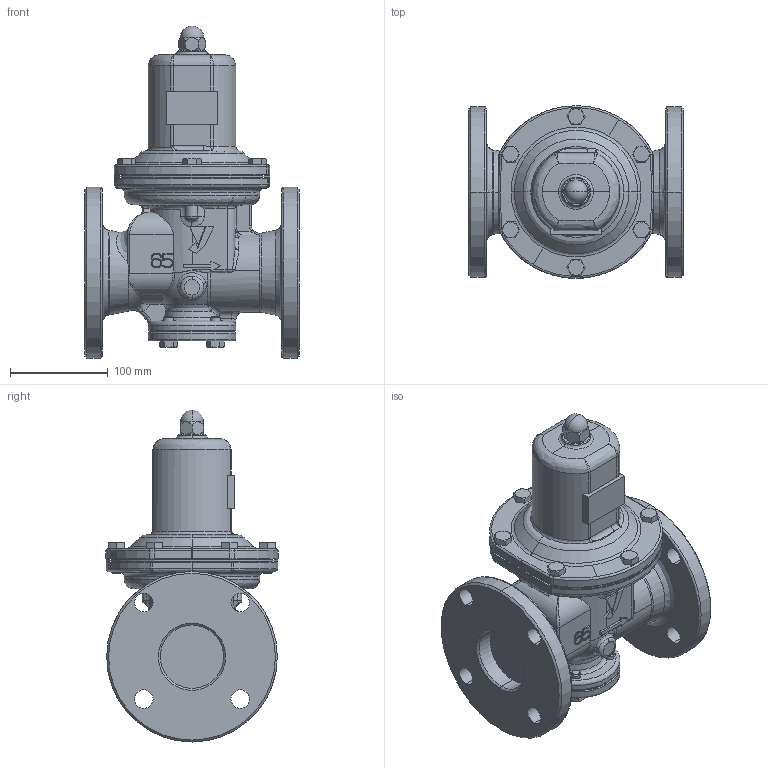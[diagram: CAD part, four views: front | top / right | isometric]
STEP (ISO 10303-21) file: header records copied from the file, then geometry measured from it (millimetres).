
FILE_DESCRIPTION( (''), '2;1');
FILE_NAME ('PC2082.18472.GD-27S-NE 65A_6195.stp','2026-03-25T14:54:06',(''),(''),'spGate 20.6.3 (****-****-****-****)','','');
FILE_SCHEMA (('AUTOMOTIVE_DESIGN'));
Length unit declared in the file: millimetre
Products named in the file (8): Assembly; ダイヤフラム65A; 保護筒; カバー　65A; CP_''_JIS B 1183 六角袋ナット 3形 M''_705; CP_''_JIS B 1180 呼び径六角ボルト''_M10-25; プラグ; 弁箱　65A 10KFF
Assembly tree (16 placements, depth 2):
  Assembly
    ダイヤフラム65A
    保護筒
    カバー　65A
    CP_''_JIS B 1183 六角袋ナット 3形 M''_705
    CP_''_JIS B 1180 呼び径六角ボルト''_M10-25  x10
    プラグ
    弁箱　65A 10KFF
Bounding box: 220 x 177 x 340.5 mm (x, y, z)
Volume: 2967598.2 mm3; surface area: 434483.3 mm2
Topology: 16 solids, 16 shells, 826 faces, 2025 edges, 1233 vertices
Faces by surface type: bspline 367, cylinder 223, plane 219, sphere 17
Entity records: 40737 total; most frequent: CARTESIAN_POINT 15657, ORIENTED_EDGE 3112, COLOUR_RGB 2173, PRESENTATION_STYLE_ASSIGNMENT 2173, STYLED_ITEM 2173, DIRECTION 2162, EDGE_CURVE 1556, DRAUGHTING_PRE_DEFINED_CURVE_FONT 1556
